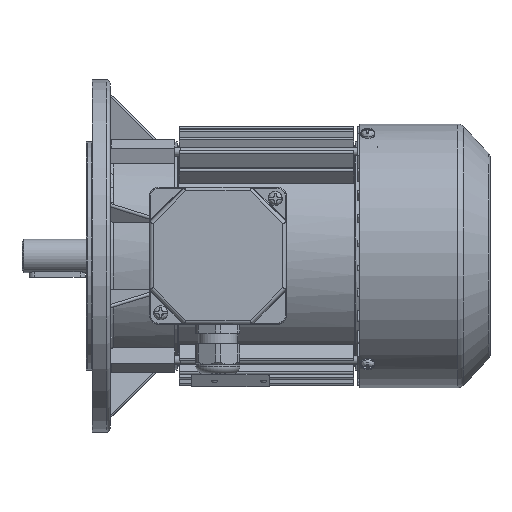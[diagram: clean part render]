
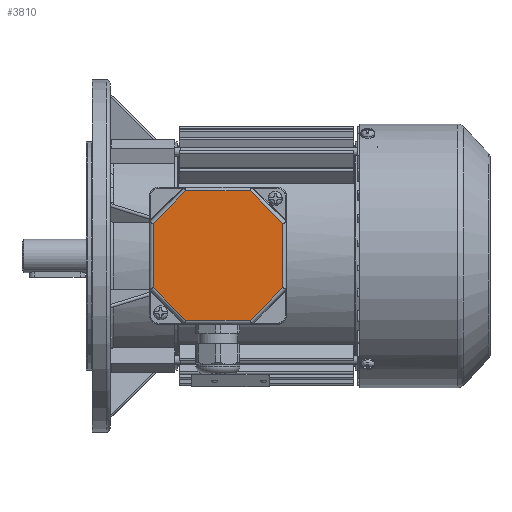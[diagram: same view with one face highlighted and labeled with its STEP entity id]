
A CAD part, top view. The second image highlights one B-rep face of the part: STEP entity #3810.
In plain terms, the highlighted planar face has unit normal (0, 0, 1).
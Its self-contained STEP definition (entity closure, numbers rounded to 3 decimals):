
#3810 = ADVANCED_FACE( '', ( #8978 ), #8979, .T. );
#8978 = FACE_OUTER_BOUND( '', #19755, .T. );
#8979 = PLANE( '', #19756 );
#19755 = EDGE_LOOP( '', ( #39050, #39051, #39052, #39053, #39054, #39055, #39056, #39057 ) );
#19756 = AXIS2_PLACEMENT_3D( '', #39058, #39059, #39060 );
#39050 = ORIENTED_EDGE( '', *, *, #57578, .T. );
#39051 = ORIENTED_EDGE( '', *, *, #57579, .T. );
#39052 = ORIENTED_EDGE( '', *, *, #55368, .T. );
#39053 = ORIENTED_EDGE( '', *, *, #57580, .T. );
#39054 = ORIENTED_EDGE( '', *, *, #56672, .T. );
#39055 = ORIENTED_EDGE( '', *, *, #57581, .T. );
#39056 = ORIENTED_EDGE( '', *, *, #57582, .T. );
#39057 = ORIENTED_EDGE( '', *, *, #57583, .T. );
#39058 = CARTESIAN_POINT( '', ( -39., 39., 12. ) );
#39059 = DIRECTION( '', ( 0., 0., 1. ) );
#39060 = DIRECTION( '', ( 1., 0., 0. ) );
#55368 = EDGE_CURVE( '', #63399, #63400, #63401, .F. );
#56672 = EDGE_CURVE( '', #65700, #65701, #65702, .F. );
#57578 = EDGE_CURVE( '', #67203, #67204, #67205, .F. );
#57579 = EDGE_CURVE( '', #67204, #63399, #67206, .T. );
#57580 = EDGE_CURVE( '', #63400, #65700, #67207, .T. );
#57581 = EDGE_CURVE( '', #65701, #67208, #67209, .T. );
#57582 = EDGE_CURVE( '', #67208, #67210, #67211, .F. );
#57583 = EDGE_CURVE( '', #67210, #67203, #67212, .T. );
#63399 = VERTEX_POINT( '', #75215 );
#63400 = VERTEX_POINT( '', #75216 );
#63401 = LINE( '', #75217, #75218 );
#65700 = VERTEX_POINT( '', #81484 );
#65701 = VERTEX_POINT( '', #81485 );
#65702 = LINE( '', #81486, #81487 );
#67203 = VERTEX_POINT( '', #84801 );
#67204 = VERTEX_POINT( '', #84802 );
#67205 = LINE( '', #84803, #84804 );
#67206 = LINE( '', #84805, #84806 );
#67207 = LINE( '', #84807, #84808 );
#67208 = VERTEX_POINT( '', #84809 );
#67209 = LINE( '', #84810, #84811 );
#67210 = VERTEX_POINT( '', #84812 );
#67211 = LINE( '', #84813, #84814 );
#67212 = LINE( '', #84815, #84816 );
#75215 = CARTESIAN_POINT( '', ( 18.255, 36.825, 12. ) );
#75216 = CARTESIAN_POINT( '', ( -18.255, 36.825, 12. ) );
#75217 = CARTESIAN_POINT( '', ( -19.069, 36.825, 12. ) );
#75218 = VECTOR( '', #104189, 1000. );
#81484 = CARTESIAN_POINT( '', ( -36.825, 18.255, 12. ) );
#81485 = CARTESIAN_POINT( '', ( -36.825, -18.255, 12. ) );
#81486 = CARTESIAN_POINT( '', ( -36.825, -19.069, 12. ) );
#81487 = VECTOR( '', #105647, 1000. );
#84801 = CARTESIAN_POINT( '', ( 36.825, -18.255, 12. ) );
#84802 = CARTESIAN_POINT( '', ( 36.825, 18.255, 12. ) );
#84803 = CARTESIAN_POINT( '', ( 36.825, 19.069, 12. ) );
#84804 = VECTOR( '', #106743, 1000. );
#84805 = CARTESIAN_POINT( '', ( 17.679, 37.401, 12. ) );
#84806 = VECTOR( '', #106744, 1000. );
#84807 = CARTESIAN_POINT( '', ( -37.401, 17.679, 12. ) );
#84808 = VECTOR( '', #106745, 1000. );
#84809 = CARTESIAN_POINT( '', ( -18.255, -36.825, 12. ) );
#84810 = CARTESIAN_POINT( '', ( -17.679, -37.401, 12. ) );
#84811 = VECTOR( '', #106746, 1000. );
#84812 = CARTESIAN_POINT( '', ( 18.255, -36.825, 12. ) );
#84813 = CARTESIAN_POINT( '', ( 19.069, -36.825, 12. ) );
#84814 = VECTOR( '', #106747, 1000. );
#84815 = CARTESIAN_POINT( '', ( 37.401, -17.679, 12. ) );
#84816 = VECTOR( '', #106748, 1000. );
#104189 = DIRECTION( '', ( 1., 0., 0. ) );
#105647 = DIRECTION( '', ( 0., 1., 0. ) );
#106743 = DIRECTION( '', ( 0., -1., 0. ) );
#106744 = DIRECTION( '', ( -0.707, 0.707, 0. ) );
#106745 = DIRECTION( '', ( -0.707, -0.707, 0. ) );
#106746 = DIRECTION( '', ( 0.707, -0.707, 0. ) );
#106747 = DIRECTION( '', ( -1., 0., 0. ) );
#106748 = DIRECTION( '', ( 0.707, 0.707, 0. ) );
